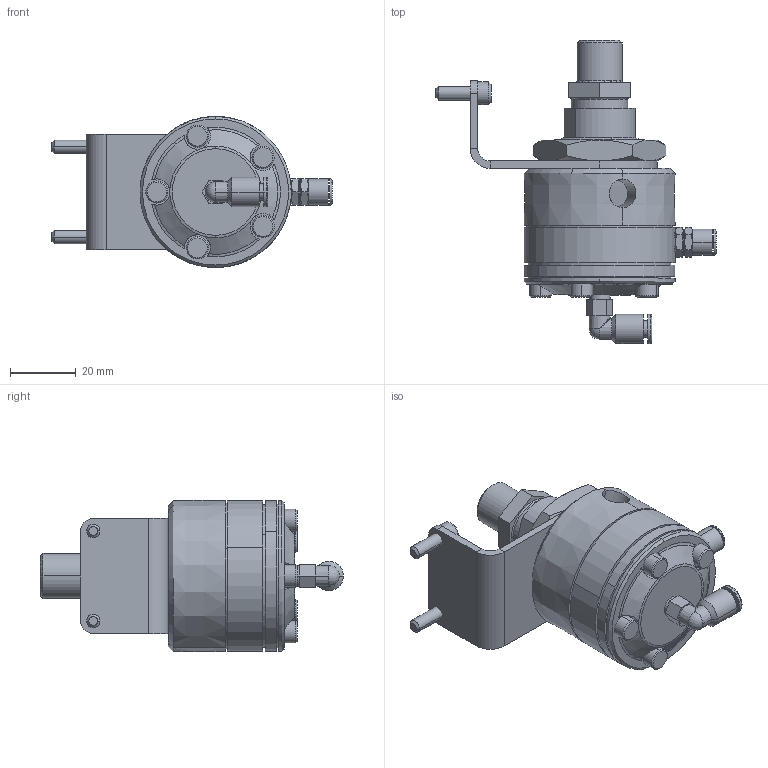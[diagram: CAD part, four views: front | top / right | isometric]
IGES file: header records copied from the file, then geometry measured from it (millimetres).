
Start section:  PTC IGES file: 24c375-en-g.igs
Global section: file name: 24c375-en-g.igs; native system: Creo Parametric by PTC Inc.; preprocessor: 2019030; author: qusrh3; organization: Unknown; date: 20191231.165336; units: inch
Bounding box: 85.22 x 92.19 x 45.97 mm (x, y, z)
Surface area: 33574.6 mm2 (no closed solid volume)
Topology: 0 solids, 0 shells, 215 faces, 873 edges, 872 vertices
Faces by surface type: revolution 139, bspline 76
